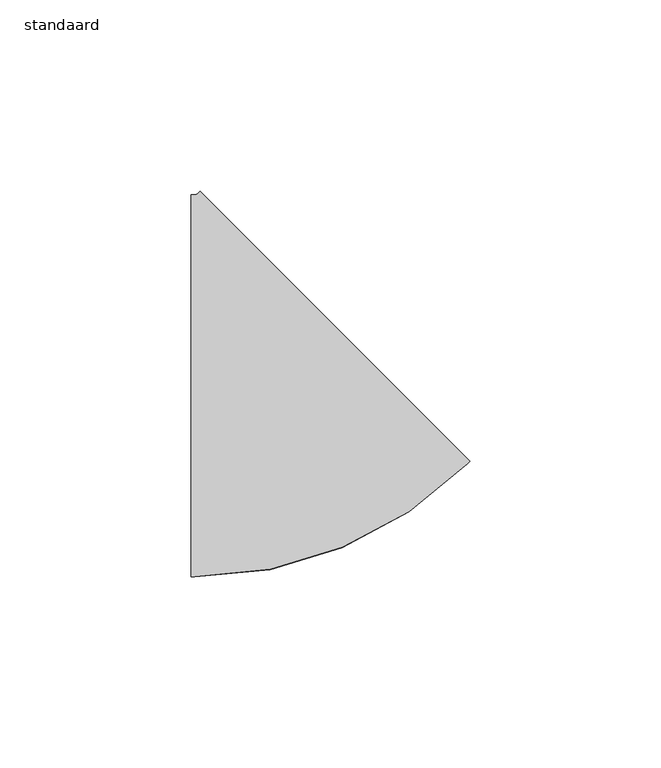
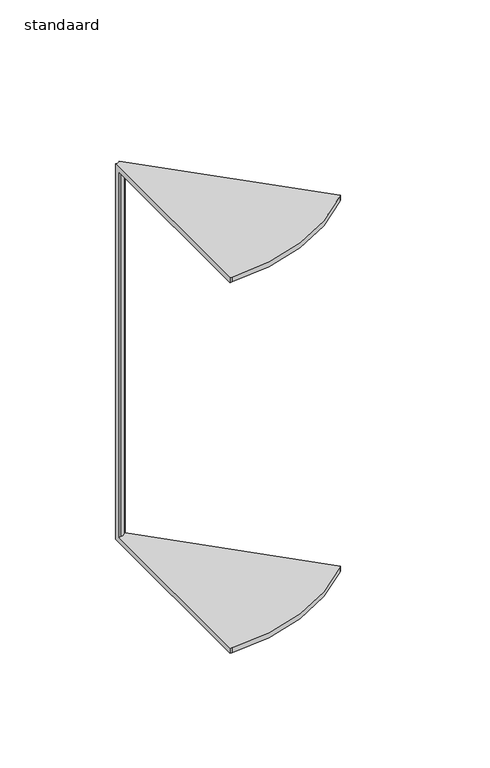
"""IFC4 building model written with IfcOpenShell, lengths in millimetres: cable carrier fitting geometry, AI_Raccord cdc_Coude desencdant : standaard."""

from ifc_helpers import new_model, si_unit, frame, origin, place, context, project, spatial, polyline, circle_curve, source, transform, mapped, element, save
from ifc_brep_helpers import plane_surface, cylinder_surface, revolved_surface, advanced_brep


def standaard_fc092b2d(model_context):
    return source(origin(), model_context, "Body", "AdvancedBrep", [
        advanced_brep(
        [(-22.1248917, -50.0, 100.0), (-22.1248917, 50.0, 100.0), (-22.1248917, 50.0, -100.0), (-22.1248917, -50.0, -100.0), (-22.1248917, -50.0, -97.46), (-22.1248917, 47.46, -97.46), (-22.1248917, 47.46, 97.46), (-22.1248917, -50.0, 97.46), (51.0, -19.7106781, 100.0), (51.0, -19.7106781, 97.46), (-17.9146269, 49.2039488, 97.46), (-17.9146269, 49.2039488, -97.46), (51.0, -19.7106781, -97.46), (51.0, -19.7106781, -100.0), (-19.7106781, 51.0, -100.0), (-19.7106781, 51.0, 100.0), (-21.1248917, -50.0, 100.0), (50.2928932, -20.4177849, 100.0), (-20.4177849, 50.2928932, 100.0), (-21.1248917, 50.0, 100.0), (-21.1248917, 50.0, -100.0), (-20.4177849, 50.2928932, -100.0), (50.2928932, -20.4177849, -100.0), (-21.1248917, -50.0, -100.0), (-21.1248917, -50.0, -97.46), (50.2928932, -20.4177849, -97.46), (-18.6217337, 48.496842, -97.46), (-21.1248917, 47.46, -97.46), (-21.1248917, 47.46, 97.46), (-18.6217337, 48.496842, 97.46), (50.2928932, -20.4177849, 97.46), (-21.1248917, -50.0, 97.46)],
        [
            (0, 1),
            (1, 2),
            (2, 3),
            (3, 4),
            (4, 5),
            (5, 6),
            (6, 7),
            (7, 0),
            (8, 9),
            (9, 10),
            (10, 11),
            (11, 12),
            (12, 13),
            (13, 14),
            (14, 15),
            (15, 8),
            (0, 16),
            (16, 17, circle_curve(frame((-21.1248917, 51.0, 100.0), z_axis=(0.0, 0.0, 1.0), x_axis=(0.0, -1.0, 0.0)), 101.0)),
            (17, 8),
            (15, 18),
            (18, 19, circle_curve(frame((-21.1248917, 51.0, 100.0), z_axis=(0.0, 0.0, -1.0), x_axis=(0.0, -1.0, 0.0)), 1.0)),
            (19, 1),
            (19, 20),
            (20, 2),
            (20, 21, circle_curve(frame((-21.1248917, 51.0, -100.0), z_axis=(0.0, 0.0, 1.0), x_axis=(0.0, -1.0, 0.0)), 1.0)),
            (21, 14),
            (13, 22),
            (22, 23, circle_curve(frame((-21.1248917, 51.0, -100.0), z_axis=(0.0, 0.0, -1.0), x_axis=(0.0, -1.0, 0.0)), 101.0)),
            (23, 3),
            (23, 24),
            (24, 4),
            (24, 25, circle_curve(frame((-21.1248917, 51.0, -97.46), z_axis=(0.0, 0.0, 1.0), x_axis=(0.0, -1.0, 0.0)), 101.0)),
            (25, 12),
            (11, 26),
            (26, 27, circle_curve(frame((-21.1248917, 51.0, -97.46), z_axis=(0.0, 0.0, -1.0), x_axis=(0.0, -1.0, 0.0)), 3.54)),
            (27, 5),
            (27, 28),
            (28, 6),
            (28, 29, circle_curve(frame((-21.1248917, 51.0, 97.46), z_axis=(0.0, 0.0, 1.0), x_axis=(0.0, -1.0, 0.0)), 3.54)),
            (29, 10),
            (9, 30),
            (30, 31, circle_curve(frame((-21.1248917, 51.0, 97.46), z_axis=(0.0, 0.0, -1.0), x_axis=(0.0, -1.0, 0.0)), 101.0)),
            (31, 7),
            (31, 16),
            (18, 21),
            (22, 25),
            (26, 29),
            (30, 17),
        ],
        [
            plane_surface(frame((-22.1248917, 0.0, 0.0), z_axis=(-1.0, -4.915201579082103e-12, 0.0), x_axis=(0.0, 0.0, 1.0))),
            plane_surface(frame((15.6446609, 15.6446609, 0.0), z_axis=(0.7071067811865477, 0.7071067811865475, 0.0), x_axis=(0.0, 0.0, 1.0))),
            plane_surface(frame((-22.1248917, -50.0, 100.0), z_axis=(0.0, 0.0, 1.0), x_axis=(1.0, 4.923661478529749e-12, 0.0))),
            plane_surface(frame((-22.1248917, 50.0, 100.0), z_axis=(-4.915201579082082e-12, 1.0, 0.0), x_axis=(1.0, 4.915201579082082e-12, 0.0))),
            plane_surface(frame((-22.1248917, 50.0, -100.0), z_axis=(0.0, 0.0, -1.0), x_axis=(1.0, 4.915201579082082e-12, 0.0))),
            plane_surface(frame((-22.1248917, -50.0, -100.0), z_axis=(4.923661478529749e-12, -1.0, 0.0), x_axis=(1.0, 4.923661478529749e-12, 0.0))),
            plane_surface(frame((-22.1248917, -50.0, -97.46), z_axis=(0.0, 0.0, 1.0), x_axis=(1.0, 4.923661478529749e-12, 0.0))),
            plane_surface(frame((-22.1248917, 47.46, -97.46), z_axis=(4.915201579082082e-12, -1.0, 0.0), x_axis=(1.0, 4.915201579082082e-12, 0.0))),
            plane_surface(frame((-22.1248917, 47.46, 97.46), z_axis=(0.0, 0.0, -1.0), x_axis=(1.0, 4.915201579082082e-12, 0.0))),
            plane_surface(frame((-22.1248917, -50.0, 97.46), z_axis=(4.923661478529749e-12, -1.0, 0.0), x_axis=(1.0, 4.923661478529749e-12, 0.0))),
            revolved_surface(polyline([(-21.1248917, 50.0, 100.0), (-21.1248917, 50.0, -100.0)]), (-21.1248917, 51.0, 0.0), (0.0, 0.0, 1.0)),
            cylinder_surface(frame((-21.1248917, 51.0, 0.0), z_axis=(0.0, 0.0, 1.0), x_axis=(0.0, -1.0, 0.0)), 101.0),
            cylinder_surface(frame((-21.1248917, 51.0, 0.0), z_axis=(0.0, 0.0, 1.0), x_axis=(0.0, -1.0, 0.0)), 3.54),
            plane_surface(frame((-20.4177849, 50.2928932, 100.0), z_axis=(-0.7071067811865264, 0.7071067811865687, 0.0), x_axis=(0.7071067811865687, 0.7071067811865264, 0.0))),
            plane_surface(frame((50.2928932, -20.4177849, -100.0), z_axis=(0.7071067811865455, -0.7071067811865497, 0.0), x_axis=(0.7071067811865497, 0.7071067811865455, 0.0))),
            plane_surface(frame((-18.6217337, 48.496842, -97.46), z_axis=(0.7071067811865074, -0.7071067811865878, 0.0), x_axis=(0.7071067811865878, 0.7071067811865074, 0.0))),
            plane_surface(frame((50.2928932, -20.4177849, 97.46), z_axis=(0.7071067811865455, -0.7071067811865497, 0.0), x_axis=(0.7071067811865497, 0.7071067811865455, 0.0))),
        ],
        [
            (0, [[1, 2, 3, 4, 5, 6, 7, 8]]),
            (1, [[9, 10, 11, 12, 13, 14, 15, 16]]),
            (2, [[-1, 17, 18, 19, -16, 20, 21, 22]]),
            (3, [[-2, -22, 23, 24]]),
            (4, [[-3, -24, 25, 26, -14, 27, 28, 29]]),
            (5, [[-4, -29, 30, 31]]),
            (6, [[-5, -31, 32, 33, -12, 34, 35, 36]]),
            (7, [[-6, -36, 37, 38]]),
            (8, [[-7, -38, 39, 40, -10, 41, 42, 43]]),
            (9, [[-8, -43, 44, -17]]),
            (10, [[-25, -23, -21, 45]]),
            (11, [[-32, -30, -28, 46]]),
            (12, [[-39, -37, -35, 47]]),
            (11, [[-18, -44, -42, 48]]),
            (13, [[-45, -20, -15, -26]]),
            (14, [[-46, -27, -13, -33]]),
            (15, [[-47, -34, -11, -40]]),
            (16, [[-48, -41, -9, -19]]),
        ],
    ),
    ])


if __name__ == "__main__":
    model = new_model("IFC4")
    model_context = context("Model", 3, world=origin())
    ifc_project = project(units=[si_unit("LENGTHUNIT", "METRE", prefix="MILLI")], contexts=[model_context])
    site = spatial("IfcSite", under=ifc_project)
    building = spatial("IfcBuilding", under=site)
    placement = place(None, origin())
    standaard_shape = standaard_fc092b2d(model_context)
    element("IfcCableCarrierFitting", 1, ObjectType="AI_Raccord cdc_Coude desencdant : standaard", at=placement, inside=building, context=model_context, shape_type="MappedRepresentation", body=[
        mapped(standaard_shape, transform((0.0, 0.0, 0.0), x_axis=(1.0, 0.0, 0.0), y_axis=(0.0, 1.0, 0.0), z_axis=(0.0, 0.0, 1.0))),
    ])
    save(model, "model.ifc")
